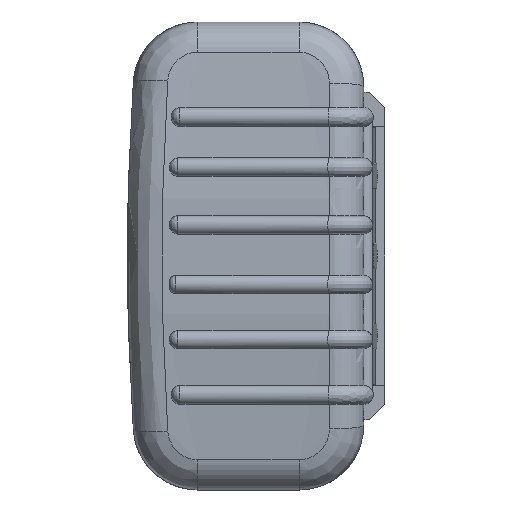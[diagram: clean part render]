
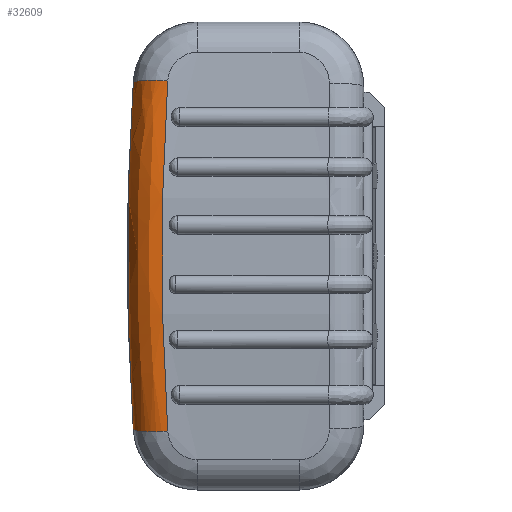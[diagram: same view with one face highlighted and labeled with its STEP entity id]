
A CAD part, left-side view. The second image highlights one B-rep face of the part: STEP entity #32609.
In plain terms, the highlighted free-form (B-spline) face has degree [3, 2] with [6, 3] control points.
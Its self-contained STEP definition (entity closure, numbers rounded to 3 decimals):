
#1130 = EDGE_CURVE ( 'NONE', #18922, #18756, #4280, .T. ) ;
#1238 = CARTESIAN_POINT ( 'NONE',  ( 89.935, 54.311, 27.357 ) ) ;
#1462 = DIRECTION ( 'NONE',  ( 0.994, 0., -0.106 ) ) ;
#1577 = DIRECTION ( 'NONE',  ( 0.106, 0.067, 0.992 ) ) ;
#1613 = CARTESIAN_POINT ( 'NONE',  ( 80.55, 45.446, -39.698 ) ) ;
#1943 = CIRCLE ( 'NONE', #5052, 8. ) ;
#2462 = CARTESIAN_POINT ( 'NONE',  ( 88.505, 45.446, -40.548 ) ) ;
#3334 = ORIENTED_EDGE ( 'NONE', *, *, #11496, .F. ) ;
#3442 = ORIENTED_EDGE ( 'NONE', *, *, #25661, .F. ) ;
#3689 = CARTESIAN_POINT ( 'NONE',  ( 88.505, 45.446, -40.548 ) ) ;
#3792 = CARTESIAN_POINT ( 'NONE',  ( 80.55, 53.428, 40.234 ) ) ;
#3989 = EDGE_CURVE ( 'NONE', #14562, #18756, #18863, .T. ) ;
#4280 = CIRCLE ( 'NONE', #21864, 8. ) ;
#4292 = EDGE_LOOP ( 'NONE', ( #16803, #21924, #3334, #3442 ) ) ;
#5052 = AXIS2_PLACEMENT_3D ( 'NONE', #14214, #31849, #16753 ) ;
#6236 = CARTESIAN_POINT ( 'NONE',  ( 89.935, 54.311, -27.357 ) ) ;
#6352 = CARTESIAN_POINT ( 'NONE',  ( 88.505, 45.446, 40.548 ) ) ;
#7326 = CARTESIAN_POINT ( 'NONE',  ( 83.368, 55.225, 0. ) ) ;
#8640 = CARTESIAN_POINT ( 'NONE',  ( 88.449, 53.371, -41.074 ) ) ;
#8755 = CARTESIAN_POINT ( 'NONE',  ( 82.667, 54.777, -13.411 ) ) ;
#9823 = CARTESIAN_POINT ( 'NONE',  ( 80.55, 53.428, 40.234 ) ) ;
#10071 = FACE_OUTER_BOUND ( 'NONE', #4292, .T. ) ;
#10073 = CARTESIAN_POINT ( 'NONE',  ( 89.95, 46.334, 27.032 ) ) ;
#11284 = CARTESIAN_POINT ( 'NONE',  ( 90.667, 46.777, -13.516 ) ) ;
#11496 = EDGE_CURVE ( 'NONE', #26788, #14562, #1943, .T. ) ;
#11778 = CARTESIAN_POINT ( 'NONE',  ( 88.505, 45.446, 40.548 ) ) ;
#12387 = CARTESIAN_POINT ( 'NONE',  ( 81.965, 54.328, -26.822 ) ) ;
#12504 = CARTESIAN_POINT ( 'NONE',  ( 80.55, 53.428, 40.234 ) ) ;
#13865 = CARTESIAN_POINT ( 'NONE',  ( 90.667, 54.777, 13.695 ) ) ;
#14214 = CARTESIAN_POINT ( 'NONE',  ( 80.55, 45.446, 39.698 ) ) ;
#14562 = VERTEX_POINT ( 'NONE', #12504 ) ;
#16388 = CARTESIAN_POINT ( 'NONE',  ( 81.965, 54.328, 26.823 ) ) ;
#16753 = DIRECTION ( 'NONE',  ( 0.994, 0., 0.106 ) ) ;
#16803 = ORIENTED_EDGE ( 'NONE', *, *, #1130, .T. ) ;
#18756 = VERTEX_POINT ( 'NONE', #26695 ) ;
#18825 = CARTESIAN_POINT ( 'NONE',  ( 80.55, 53.428, -40.234 ) ) ;
#18863 = B_SPLINE_CURVE_WITH_KNOTS ( 'NONE', 3,
 ( #9823, #25030, #7326, #12387, #30072 ),
 .UNSPECIFIED., .F., .F.,
 ( 4, 1, 4 ),
 ( 0., 0.04, 0.08 ),
 .UNSPECIFIED. ) ;
#18922 = VERTEX_POINT ( 'NONE', #24901 ) ;
#18939 = CARTESIAN_POINT ( 'NONE',  ( 89.95, 46.334, 27.032 ) ) ;
#21388 = CARTESIAN_POINT ( 'NONE',  ( 81.965, 54.328, -26.823 ) ) ;
#21502 = CARTESIAN_POINT ( 'NONE',  ( 88.449, 53.371, 41.074 ) ) ;
#21864 = AXIS2_PLACEMENT_3D ( 'NONE', #1613, #1577, #1462 ) ;
#21924 = ORIENTED_EDGE ( 'NONE', *, *, #3989, .F. ) ;
#23786 = B_SPLINE_CURVE_WITH_KNOTS ( 'NONE', 3,
 ( #2462, #27688, #25264, #10073, #27799 ),
 .UNSPECIFIED., .F., .F.,
 ( 4, 1, 4 ),
 ( 0., 0.041, 0.081 ),
 .UNSPECIFIED. ) ;
#23940 = CARTESIAN_POINT ( 'NONE',  ( 89.95, 46.334, -27.032 ) ) ;
#24901 = CARTESIAN_POINT ( 'NONE',  ( 88.505, 45.446, -40.548 ) ) ;
#25030 = CARTESIAN_POINT ( 'NONE',  ( 81.965, 54.328, 26.822 ) ) ;
#25264 = CARTESIAN_POINT ( 'NONE',  ( 91.383, 47.219, 0. ) ) ;
#25661 = EDGE_CURVE ( 'NONE', #18922, #26788, #23786, .T. ) ;
#26488 = CARTESIAN_POINT ( 'NONE',  ( 90.667, 54.777, -13.695 ) ) ;
#26695 = CARTESIAN_POINT ( 'NONE',  ( 80.55, 53.428, -40.234 ) ) ;
#26788 = VERTEX_POINT ( 'NONE', #11778 ) ;
#27255 =( BOUNDED_SURFACE ( )  B_SPLINE_SURFACE ( 3, 2, ( 
 ( #18825, #8640, #3689 ),
 ( #21388, #6236, #23940 ),
 ( #8755, #26488, #11284 ),
 ( #29011, #13865, #31504 ),
 ( #16388, #1238, #18939 ),
 ( #3792, #21502, #6352 ) ),
 .UNSPECIFIED., .F., .F., .F. ) 
 B_SPLINE_SURFACE_WITH_KNOTS ( ( 4, 2, 4 ),
 ( 3, 3 ),
 ( 0., 0.04, 0.079 ),
 ( 0., 1. ),
 .UNSPECIFIED. ) 
 GEOMETRIC_REPRESENTATION_ITEM ( )  RATIONAL_B_SPLINE_SURFACE ( (
 ( 1., 0.71, 1.),
 ( 1., 0.708, 1.),
 ( 1., 0.707, 1.),
 ( 1., 0.707, 1.),
 ( 1., 0.708, 1.),
 ( 1., 0.71, 1.) ) ) 
 REPRESENTATION_ITEM ( '' )  SURFACE ( )  );
#27688 = CARTESIAN_POINT ( 'NONE',  ( 89.95, 46.334, -27.032 ) ) ;
#27799 = CARTESIAN_POINT ( 'NONE',  ( 88.505, 45.446, 40.548 ) ) ;
#29011 = CARTESIAN_POINT ( 'NONE',  ( 82.667, 54.777, 13.411 ) ) ;
#30072 = CARTESIAN_POINT ( 'NONE',  ( 80.55, 53.428, -40.234 ) ) ;
#31504 = CARTESIAN_POINT ( 'NONE',  ( 90.667, 46.777, 13.516 ) ) ;
#31849 = DIRECTION ( 'NONE',  ( -0.106, -0.067, 0.992 ) ) ;
#32609 = ADVANCED_FACE ( 'NONE', ( #10071 ), #27255, .T. ) ;
